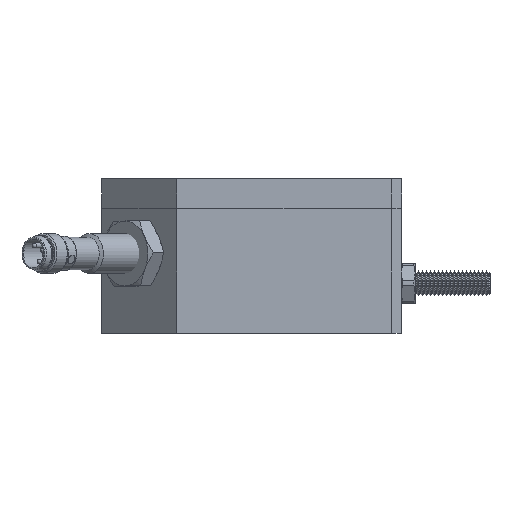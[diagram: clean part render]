
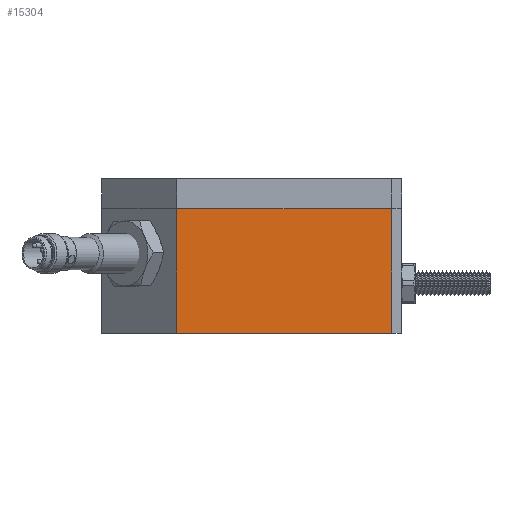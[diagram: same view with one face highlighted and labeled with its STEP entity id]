
A CAD part, front view. The second image highlights one B-rep face of the part: STEP entity #15304.
In plain terms, the highlighted planar face has unit normal (0, -1, 0).
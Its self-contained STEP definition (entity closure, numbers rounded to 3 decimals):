
#21 = VERTEX_POINT ( 'NONE', #1594 ) ;
#105 = VERTEX_POINT ( 'NONE', #1678 ) ;
#129 = VERTEX_POINT ( 'NONE', #1702 ) ;
#290 = EDGE_LOOP ( 'NONE', ( #11331, #11310, #11313, #11311 ) ) ;
#1594 = CARTESIAN_POINT ( 'NONE',  ( -15., -30., 25. ) ) ;
#1678 = CARTESIAN_POINT ( 'NONE',  ( 28., -30., 0. ) ) ;
#1702 = CARTESIAN_POINT ( 'NONE',  ( -15., -30., 0. ) ) ;
#3253 = EDGE_CURVE ( 'NONE', #21, #13469, #4467, .T. ) ;
#3310 = EDGE_CURVE ( 'NONE', #129, #105, #4550, .T. ) ;
#3313 = EDGE_CURVE ( 'NONE', #13469, #105, #4556, .T. ) ;
#3318 = EDGE_CURVE ( 'NONE', #21, #129, #4553, .T. ) ;
#4467 = LINE ( 'NONE', #5594, #4468 ) ;
#4468 = VECTOR ( 'NONE', #5595, 1000. ) ;
#4550 = LINE ( 'NONE', #5804, #4551 ) ;
#4551 = VECTOR ( 'NONE', #5805, 1000. ) ;
#4553 = LINE ( 'NONE', #5822, #4564 ) ;
#4556 = LINE ( 'NONE', #5810, #4557 ) ;
#4557 = VECTOR ( 'NONE', #5811, 1000. ) ;
#4564 = VECTOR ( 'NONE', #5823, 1000. ) ;
#5594 = CARTESIAN_POINT ( 'NONE',  ( -15., -30., 25. ) ) ;
#5595 = DIRECTION ( 'NONE',  ( 1., 0., 0. ) ) ;
#5804 = CARTESIAN_POINT ( 'NONE',  ( -15., -30., 0. ) ) ;
#5805 = DIRECTION ( 'NONE',  ( 1., 0., 0. ) ) ;
#5810 = CARTESIAN_POINT ( 'NONE',  ( 28., -30., 25. ) ) ;
#5811 = DIRECTION ( 'NONE',  ( 0., 0., -1. ) ) ;
#5822 = CARTESIAN_POINT ( 'NONE',  ( -15., -30., 25. ) ) ;
#5823 = DIRECTION ( 'NONE',  ( 0., 0., -1. ) ) ;
#7093 = AXIS2_PLACEMENT_3D ( 'NONE', #12273, #12283, #12284 ) ;
#7607 = CARTESIAN_POINT ( 'NONE',  ( 28., -30., 25. ) ) ;
#11310 = ORIENTED_EDGE ( 'NONE', *, *, #3313, .F. ) ;
#11311 = ORIENTED_EDGE ( 'NONE', *, *, #3318, .T. ) ;
#11313 = ORIENTED_EDGE ( 'NONE', *, *, #3253, .F. ) ;
#11331 = ORIENTED_EDGE ( 'NONE', *, *, #3310, .T. ) ;
#12270 = PLANE ( 'NONE',  #7093 ) ;
#12273 = CARTESIAN_POINT ( 'NONE',  ( -15., -30., 25. ) ) ;
#12283 = DIRECTION ( 'NONE',  ( 0., 1., 0. ) ) ;
#12284 = DIRECTION ( 'NONE',  ( 0., 0., 1. ) ) ;
#13116 = FACE_OUTER_BOUND ( 'NONE', #290, .T. ) ;
#13469 = VERTEX_POINT ( 'NONE', #7607 ) ;
#15304 = ADVANCED_FACE ( 'NONE', ( #13116 ), #12270, .F. ) ;
